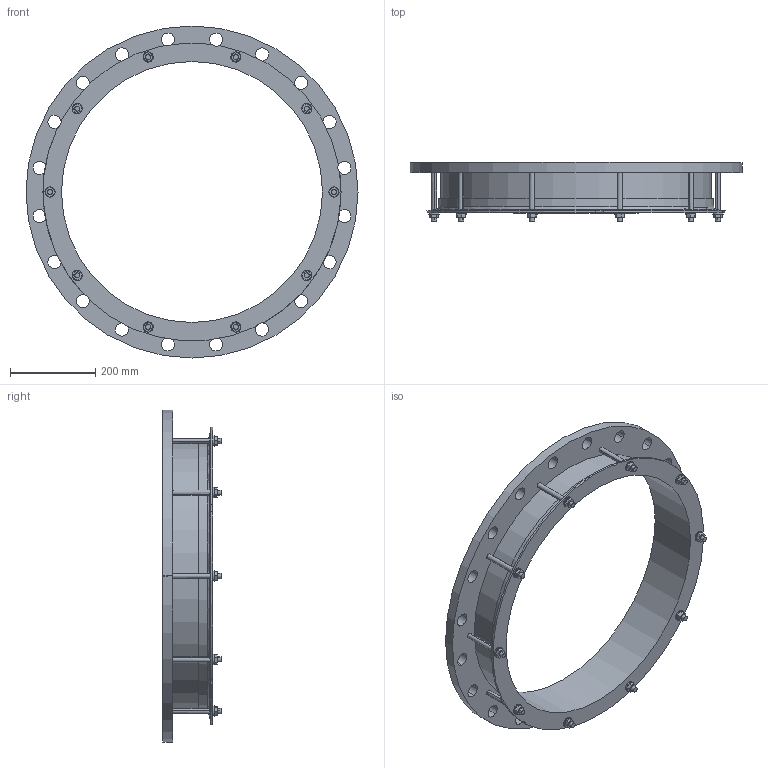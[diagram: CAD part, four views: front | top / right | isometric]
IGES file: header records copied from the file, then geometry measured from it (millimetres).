
Start section:  PTC IGES file: 610x600pn10_5not.igs
Global section: file name: 610x600pn10_5not.igs; native system: Creo Parametric by PTC Inc.; preprocessor: 2016130; author: mfairey; organization: Unknown; date: 20190116.135857; units: millimetre
Bounding box: 780 x 137.45 x 780 mm (x, y, z)
Surface area: 1018017.5 mm2 (no closed solid volume)
Topology: 0 solids, 0 shells, 216 faces, 1148 edges, 1148 vertices
Faces by surface type: revolution 122, bspline 94
